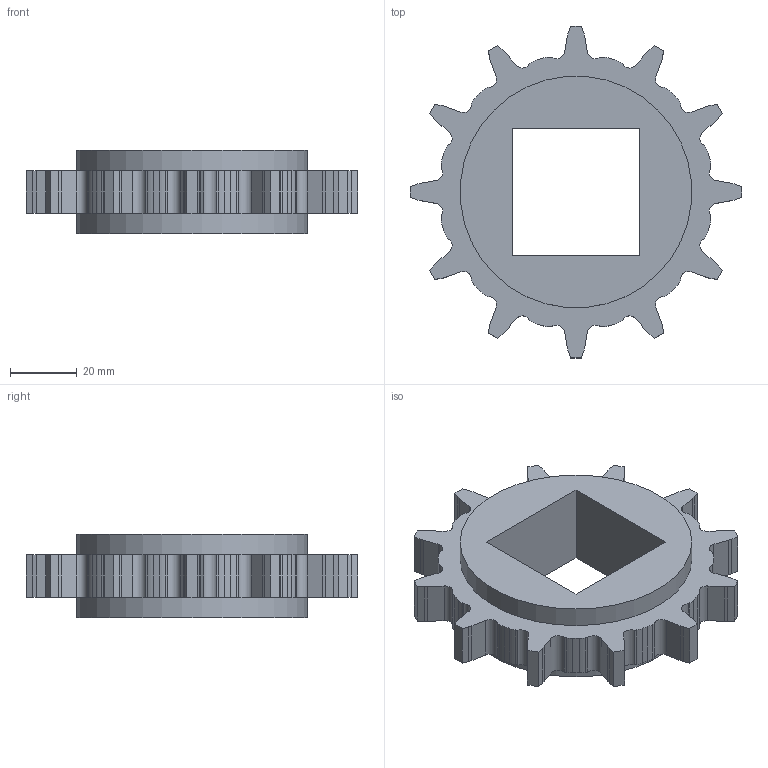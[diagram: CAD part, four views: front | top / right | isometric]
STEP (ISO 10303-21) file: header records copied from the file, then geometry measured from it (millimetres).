
FILE_DESCRIPTION((''),'2;1');
FILE_NAME('S2300_12T_SQ','2017-06-29T',('rklein'),('INTRALOX'),'CREO PARAMETRIC BY PTC INC, 2014500','CREO PARAMETRIC BY PTC INC, 2014500','');
FILE_SCHEMA(('CONFIG_CONTROL_DESIGN'));
Length unit declared in the file: inch
Products named in the file (1): S2300_12T_SQ
Bounding box: 99.37 x 99.37 x 24.89 mm (x, y, z)
Volume: 84087.9 mm3; surface area: 20723.1 mm2
Topology: 1 solids, 1 shells, 180 faces, 528 edges, 352 vertices
Faces by surface type: plane 116, cylinder 64
Entity records: 6024 total; most frequent: CARTESIAN_POINT 1060, ORIENTED_EDGE 1056, DIRECTION 1016, EDGE_CURVE 528, VECTOR 400, LINE 400, VERTEX_POINT 352, AXIS2_PLACEMENT_3D 308
